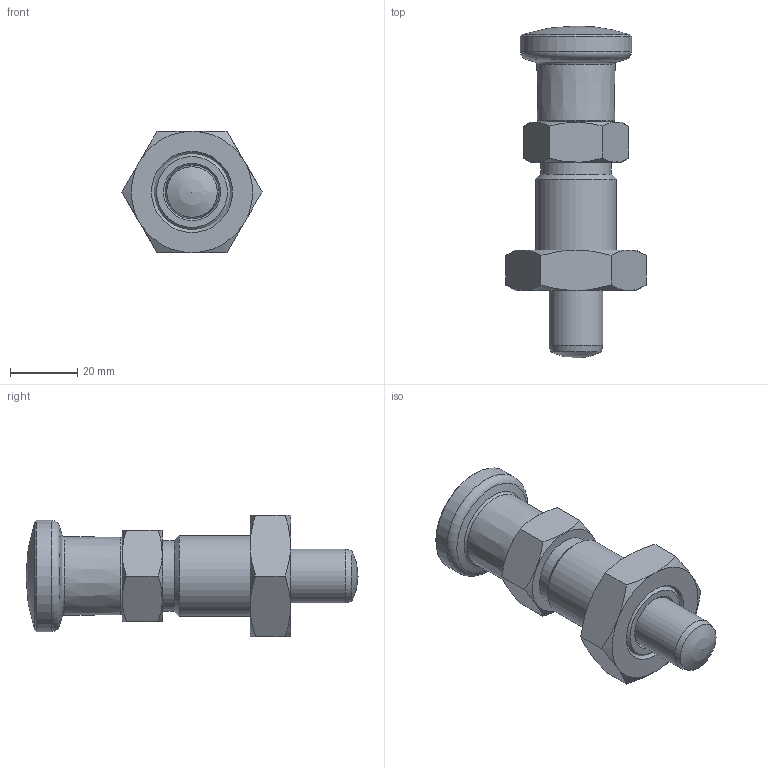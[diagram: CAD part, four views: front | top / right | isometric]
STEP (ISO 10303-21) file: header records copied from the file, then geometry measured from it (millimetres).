
FILE_DESCRIPTION( ( 'STEP AP203' ), '1' );
FILE_NAME( 'C:/Temp/Ganter_Step_05_03_2020/data/3_1/gn817/gn817_ni-rastbolzen_rot/Stainless Steel-Indexing plunger GN 817-16-20-BK-NI-RT (deactivated-0).stp', '2020-03-12T09:00:37', ( 'License CC BY-ND 4.0' ), ( 'CADENAS' ), ' ', 'PARTsolutions', ' ' );
FILE_SCHEMA( ( 'CONFIG_CONTROL_DESIGN' ) );
Length unit declared in the file: millimetre
Products named in the file (5): Stainless Steel-Indexing plunger GN 817-16-20-BK-NI-RT (deactivated-0); _Stainless steel-Indexing plunger GN 817-16-20-BK-NI-RT (deactivated-0)-d; _Stainless steel-Indexing plunger GN 817-16-20-B-NI-RT-2; _Stainless Steel Indexing plunger GN 817-16-20-B-NI-RT-1; _Stainless steel-Indexing plunger GN 817-16-20-BK-NI-RT (deactivated-0)-3
Assembly tree (4 placements, depth 2):
  Stainless Steel-Indexing plunger GN 817-16-20-BK-NI-RT (deactivated-0)
    _Stainless steel-Indexing plunger GN 817-16-20-BK-NI-RT (deactivated-0)-d
    _Stainless steel-Indexing plunger GN 817-16-20-B-NI-RT-2
    _Stainless Steel Indexing plunger GN 817-16-20-B-NI-RT-1
    _Stainless steel-Indexing plunger GN 817-16-20-BK-NI-RT (deactivated-0)-3
Bounding box: 41.57 x 98.5 x 36 mm (x, y, z)
Volume: 49333.7 mm3; surface area: 17884.9 mm2
Topology: 3 solids, 3 shells, 59 faces, 123 edges, 73 vertices
Faces by surface type: cone 24, plane 20, cylinder 8, torus 5, sphere 2
Full cylindrical faces by diameter (mm): 10 x1, 12 x1, 16 x2, 21 x1, 21.835 x1, 24 x1, 33 x1
Entity records: 1784 total; most frequent: CARTESIAN_POINT 527, DIRECTION 228, ORIENTED_EDGE 184, AXIS2_PLACEMENT_3D 108, EDGE_LOOP 92, EDGE_CURVE 92, FACE_OUTER_BOUND 72, VERTEX_POINT 70
